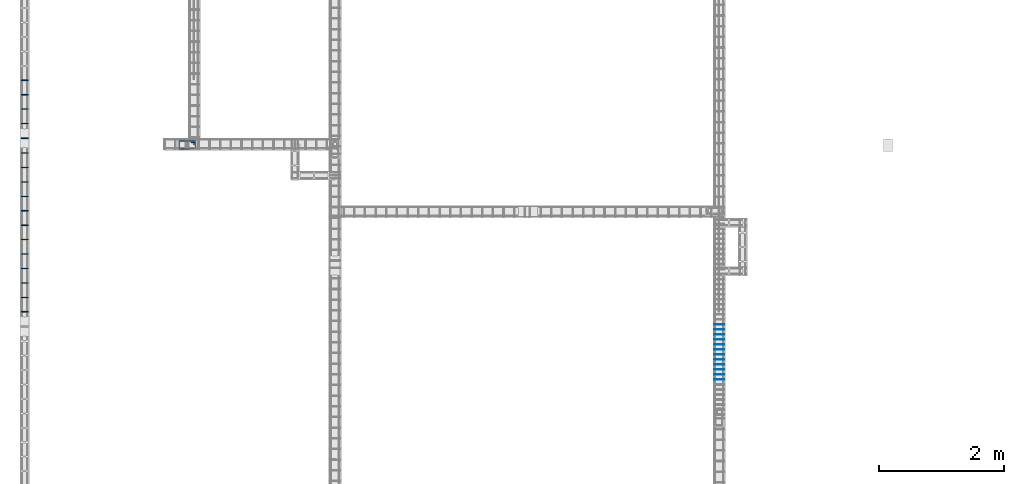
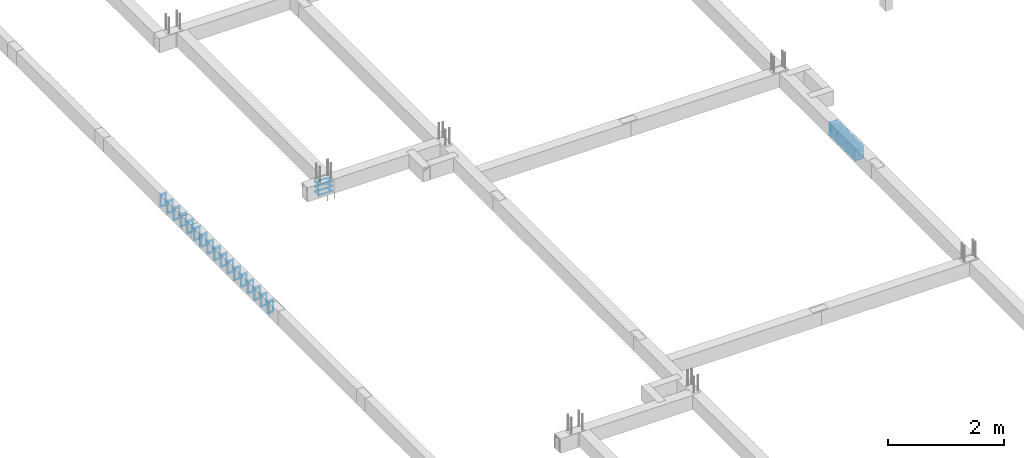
# One storey, part 62 of 150: 33 reinforcing bars.
"""IFC4 building model written with IfcOpenShell, lengths in centimetres."""

from ifc_helpers import new_model, entity, si_unit, derived_unit, frame, origin_with_axes, place, context, project, spatial, source, transform, mapped, element, save


model = new_model("IFC4")

# Units and contexts
model_context = context("Model", 3, precision=1e-05, world=origin_with_axes(), identifier="Body")
ifc_project = project(units=[si_unit("LENGTHUNIT", "METRE", prefix="CENTI"), si_unit("VOLUMEUNIT", "CUBIC_METRE"), si_unit("AREAUNIT", "SQUARE_METRE"), si_unit("POWERUNIT", "WATT"), si_unit("LUMINOUSFLUXUNIT", "LUMEN"), si_unit("ELECTRICCURRENTUNIT", "AMPERE"), si_unit("PRESSUREUNIT", "PASCAL", prefix="KILO"), si_unit("MASSUNIT", "GRAM", prefix="KILO"), si_unit("PLANEANGLEUNIT", "RADIAN"), derived_unit("VOLUMETRICFLOWRATEUNIT", [(si_unit("LENGTHUNIT", "METRE"), 3), (si_unit("TIMEUNIT", "SECOND"), -1)])], contexts=[model_context])

# Site, building, storey
site_placement = place(None, frame((-4000.0, 0.0, 0.0), z_axis=(0.0, 0.0, 1.0), x_axis=(1.0, 0.0, 0.0)))
site = spatial("IfcSite", under=ifc_project, at=site_placement, Name="PADRÃO")
building_placement = place(site_placement, frame((0.0, 0.0, -14.0)))
building = spatial("IfcBuilding", under=site, at=building_placement, Name="CRECHE PRÉ-ESCOLA TIPO 2")
placement = place(building_placement, origin_with_axes())
storey_placement = place(placement, frame((0.0, 0.0, 30.0), z_axis=(0.0, 0.0, 1.0), x_axis=(1.0, 0.0, 0.0)))
storey = spatial("IfcBuildingStorey", under=building, at=storey_placement, Name="VIGA BALDRAME", CompositionType="ELEMENT", Elevation=16.0)

# Reinforcing bars
shared_shape_1 = source(origin_with_axes(), model_context, "Body", "AdvancedSweptSolid", [
    entity("IfcSweptDiskSolid", entity("IfcCompositeCurve", [entity("IfcCompositeCurveSegment", "CONTINUOUS", True, entity("IfcPolyline", [entity("IfcCartesianPoint", [4.25, 21.75, 0.0]), entity("IfcCartesianPoint", [4.25, 27.75, 0.0])])), entity("IfcCompositeCurveSegment", "CONTINUOUS", True, entity("IfcPolyline", [entity("IfcCartesianPoint", [4.25, 27.75, 0.0]), entity("IfcCartesianPoint", [2.25, 27.75, 0.0])])), entity("IfcCompositeCurveSegment", "CONTINUOUS", True, entity("IfcPolyline", [entity("IfcCartesianPoint", [2.25, 27.75, 0.0]), entity("IfcCartesianPoint", [2.25, 2.25, 0.0])])), entity("IfcCompositeCurveSegment", "CONTINUOUS", True, entity("IfcPolyline", [entity("IfcCartesianPoint", [2.25, 2.25, 0.0]), entity("IfcCartesianPoint", [14.75, 2.25, 0.0])])), entity("IfcCompositeCurveSegment", "CONTINUOUS", True, entity("IfcPolyline", [entity("IfcCartesianPoint", [14.75, 2.25, 0.0]), entity("IfcCartesianPoint", [14.75, 27.75, -0.5])])), entity("IfcCompositeCurveSegment", "CONTINUOUS", True, entity("IfcPolyline", [entity("IfcCartesianPoint", [14.75, 27.75, -0.5]), entity("IfcCartesianPoint", [2.25, 27.75, -0.5])])), entity("IfcCompositeCurveSegment", "CONTINUOUS", True, entity("IfcPolyline", [entity("IfcCartesianPoint", [2.25, 27.75, -0.5]), entity("IfcCartesianPoint", [2.25, 25.75, -0.5])])), entity("IfcCompositeCurveSegment", "CONTINUOUS", True, entity("IfcPolyline", [entity("IfcCartesianPoint", [2.25, 25.75, -0.5]), entity("IfcCartesianPoint", [8.25, 25.75, -0.5])]))], False), 0.25),
])
for number, where, z_axis, x_axis, name in (
    (1, (253.0, 2692.01, -5.0), (0.0, 0.0, 1.0), (0.0, -1.0, 0.0), "P65 - Estribo"),
    (2, (253.0, 2692.01, -25.0), (0.0, 0.0, 1.0), (0.0, -1.0, 0.0), "P65 - Estribo"),
    (3, (253.0, 2692.01, -15.0), (0.0, 0.0, 1.0), (0.0, -1.0, 0.0), "P65 - Estribo"),
):
    element("IfcReinforcingBar", number, at=place(storey_placement, frame(where, z_axis=z_axis, x_axis=x_axis)), inside=storey, Name=name, BarLength=0.0, CrossSectionArea=1.9634954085e-05, NominalDiameter=0.5, PredefinedType="MAIN", context=model_context, shape_type="MappedRepresentation", body=[
        mapped(shared_shape_1, transform((0.0, 0.0, 0.0), scale=1.0)),
    ])
shared_shape_2 = source(origin_with_axes(), model_context, "Body", "AdvancedSweptSolid", [
    entity("IfcSweptDiskSolid", entity("IfcCompositeCurve", [entity("IfcCompositeCurveSegment", "CONTINUOUS", True, entity("IfcPolyline", [entity("IfcCartesianPoint", [2.0, -6.0, 0.0]), entity("IfcCartesianPoint", [2.0, 0.0, 0.0])])), entity("IfcCompositeCurveSegment", "CONTINUOUS", True, entity("IfcPolyline", [entity("IfcCartesianPoint", [2.0, 0.0, 0.0]), entity("IfcCartesianPoint", [0.0, 0.0, 0.0])])), entity("IfcCompositeCurveSegment", "CONTINUOUS", True, entity("IfcPolyline", [entity("IfcCartesianPoint", [0.0, 0.0, 0.0]), entity("IfcCartesianPoint", [0.0, -25.5, 0.0])])), entity("IfcCompositeCurveSegment", "CONTINUOUS", True, entity("IfcPolyline", [entity("IfcCartesianPoint", [0.0, -25.5, 0.0]), entity("IfcCartesianPoint", [15.5, -25.5, 0.0])])), entity("IfcCompositeCurveSegment", "CONTINUOUS", True, entity("IfcPolyline", [entity("IfcCartesianPoint", [15.5, -25.5, 0.0]), entity("IfcCartesianPoint", [15.5, 0.0, 0.5])])), entity("IfcCompositeCurveSegment", "CONTINUOUS", True, entity("IfcPolyline", [entity("IfcCartesianPoint", [15.5, 0.0, 0.5]), entity("IfcCartesianPoint", [0.0, 0.0, 0.5])])), entity("IfcCompositeCurveSegment", "CONTINUOUS", True, entity("IfcPolyline", [entity("IfcCartesianPoint", [0.0, 0.0, 0.5]), entity("IfcCartesianPoint", [0.0, -2.0, 0.5])])), entity("IfcCompositeCurveSegment", "CONTINUOUS", True, entity("IfcPolyline", [entity("IfcCartesianPoint", [0.0, -2.0, 0.5]), entity("IfcCartesianPoint", [6.0, -2.0, 0.5])]))], False), 0.25),
])
for number, where, z_axis, x_axis, name in (
    (4, (1108.25, 2397.75, -2.25), (0.0, -1.0, 0.0), (1.0, 0.0, 0.0), "V183 - Estribo"),
    (5, (1108.25, 2389.75, -2.25), (0.0, -1.0, 0.0), (1.0, 0.0, 0.0), "V183 - Estribo"),
    (6, (1108.25, 2381.75, -2.25), (0.0, -1.0, 0.0), (1.0, 0.0, 0.0), "V183 - Estribo"),
    (7, (1108.25, 2373.75, -2.25), (0.0, -1.0, 0.0), (1.0, 0.0, 0.0), "V183 - Estribo"),
    (8, (1108.25, 2365.75, -2.25), (0.0, -1.0, 0.0), (1.0, 0.0, 0.0), "V183 - Estribo"),
    (9, (1108.25, 2357.75, -2.25), (0.0, -1.0, 0.0), (1.0, 0.0, 0.0), "V183 - Estribo"),
    (10, (1108.25, 2349.75, -2.25), (0.0, -1.0, 0.0), (1.0, 0.0, 0.0), "V183 - Estribo"),
    (11, (1108.25, 2341.75, -2.25), (0.0, -1.0, 0.0), (1.0, 0.0, 0.0), "V183 - Estribo"),
    (12, (1108.25, 2333.75, -2.25), (0.0, -1.0, 0.0), (1.0, 0.0, 0.0), "V183 - Estribo"),
    (13, (1108.25, 2325.75, -2.25), (0.0, -1.0, 0.0), (1.0, 0.0, 0.0), "V183 - Estribo"),
    (14, (1108.25, 2317.75, -2.25), (0.0, -1.0, 0.0), (1.0, 0.0, 0.0), "V183 - Estribo"),
    (15, (1108.25, 2309.75, -2.25), (0.0, -1.0, 0.0), (1.0, 0.0, 0.0), "V183 - Estribo"),
):
    element("IfcReinforcingBar", number, at=place(storey_placement, frame(where, z_axis=z_axis, x_axis=x_axis)), inside=storey, Name=name, BarLength=0.0, CrossSectionArea=1.9634954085e-05, NominalDiameter=0.5, PredefinedType="MAIN", context=model_context, shape_type="MappedRepresentation", body=[
        mapped(shared_shape_2, transform((0.0, 0.0, 0.0), scale=1.0)),
    ])
shared_shape_3 = source(origin_with_axes(), model_context, "Body", "AdvancedSweptSolid", [
    entity("IfcSweptDiskSolid", entity("IfcCompositeCurve", [entity("IfcCompositeCurveSegment", "CONTINUOUS", True, entity("IfcPolyline", [entity("IfcCartesianPoint", [2.0, -6.0, 0.0]), entity("IfcCartesianPoint", [2.0, 0.0, 0.0])])), entity("IfcCompositeCurveSegment", "CONTINUOUS", True, entity("IfcPolyline", [entity("IfcCartesianPoint", [2.0, 0.0, 0.0]), entity("IfcCartesianPoint", [0.0, 0.0, 0.0])])), entity("IfcCompositeCurveSegment", "CONTINUOUS", True, entity("IfcPolyline", [entity("IfcCartesianPoint", [0.0, 0.0, 0.0]), entity("IfcCartesianPoint", [0.0, -25.5, 0.0])])), entity("IfcCompositeCurveSegment", "CONTINUOUS", True, entity("IfcPolyline", [entity("IfcCartesianPoint", [0.0, -25.5, 0.0]), entity("IfcCartesianPoint", [10.5, -25.5, 0.0])])), entity("IfcCompositeCurveSegment", "CONTINUOUS", True, entity("IfcPolyline", [entity("IfcCartesianPoint", [10.5, -25.5, 0.0]), entity("IfcCartesianPoint", [10.5, 0.0, 0.5])])), entity("IfcCompositeCurveSegment", "CONTINUOUS", True, entity("IfcPolyline", [entity("IfcCartesianPoint", [10.5, 0.0, 0.5]), entity("IfcCartesianPoint", [0.0, 0.0, 0.5])])), entity("IfcCompositeCurveSegment", "CONTINUOUS", True, entity("IfcPolyline", [entity("IfcCartesianPoint", [0.0, 0.0, 0.5]), entity("IfcCartesianPoint", [0.0, -2.0, 0.5])])), entity("IfcCompositeCurveSegment", "CONTINUOUS", True, entity("IfcPolyline", [entity("IfcCartesianPoint", [0.0, -2.0, 0.5]), entity("IfcCartesianPoint", [6.0, -2.0, 0.5])]))], False), 0.25),
])
for number, where, z_axis, x_axis, name in (
    (16, (3.75, 2418.0, -2.25), (0.0, -1.0, 0.0), (1.0, 0.0, 0.0), "V159 - Estribo"),
    (17, (3.75, 2441.0, -2.25), (0.0, -1.0, 0.0), (1.0, 0.0, 0.0), "V159 - Estribo"),
    (18, (3.75, 2464.0, -2.25), (0.0, -1.0, 0.0), (1.0, 0.0, 0.0), "V159 - Estribo"),
    (19, (3.75, 2487.0, -2.25), (0.0, -1.0, 0.0), (1.0, 0.0, 0.0), "V159 - Estribo"),
    (20, (3.75, 2510.0, -2.25), (0.0, -1.0, 0.0), (1.0, 0.0, 0.0), "V159 - Estribo"),
    (21, (3.75, 2533.0, -2.25), (0.0, -1.0, 0.0), (1.0, 0.0, 0.0), "V159 - Estribo"),
    (22, (3.75, 2556.0, -2.25), (0.0, -1.0, 0.0), (1.0, 0.0, 0.0), "V159 - Estribo"),
    (23, (3.75, 2579.0, -2.25), (0.0, -1.0, 0.0), (1.0, 0.0, 0.0), "V159 - Estribo"),
    (24, (3.75, 2602.0, -2.25), (0.0, -1.0, 0.0), (1.0, 0.0, 0.0), "V159 - Estribo"),
    (25, (3.75, 2625.0, -2.25), (0.0, -1.0, 0.0), (1.0, 0.0, 0.0), "V159 - Estribo"),
    (26, (3.75, 2648.0, -2.25), (0.0, -1.0, 0.0), (1.0, 0.0, 0.0), "V159 - Estribo"),
    (27, (3.75, 2671.0, -2.25), (0.0, -1.0, 0.0), (1.0, 0.0, 0.0), "V159 - Estribo"),
    (28, (3.75, 2694.0, -2.25), (0.0, -1.0, 0.0), (1.0, 0.0, 0.0), "V159 - Estribo"),
):
    element("IfcReinforcingBar", number, at=place(storey_placement, frame(where, z_axis=z_axis, x_axis=x_axis)), inside=storey, Name=name, BarLength=0.0, CrossSectionArea=1.9634954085e-05, NominalDiameter=0.5, PredefinedType="MAIN", context=model_context, shape_type="MappedRepresentation", body=[
        mapped(shared_shape_3, transform((0.0, 0.0, 0.0), scale=1.0)),
    ])
shared_shape_4 = source(origin_with_axes(), model_context, "Body", "AdvancedSweptSolid", [
    entity("IfcSweptDiskSolid", entity("IfcCompositeCurve", [entity("IfcCompositeCurveSegment", "CONTINUOUS", True, entity("IfcPolyline", [entity("IfcCartesianPoint", [2.0, -6.0, 0.0]), entity("IfcCartesianPoint", [2.0, 0.0, 0.0])])), entity("IfcCompositeCurveSegment", "CONTINUOUS", True, entity("IfcPolyline", [entity("IfcCartesianPoint", [2.0, 0.0, 0.0]), entity("IfcCartesianPoint", [0.0, 0.0, 0.0])])), entity("IfcCompositeCurveSegment", "CONTINUOUS", True, entity("IfcPolyline", [entity("IfcCartesianPoint", [0.0, 0.0, 0.0]), entity("IfcCartesianPoint", [0.0, -25.5, 0.0])])), entity("IfcCompositeCurveSegment", "CONTINUOUS", True, entity("IfcPolyline", [entity("IfcCartesianPoint", [0.0, -25.5, 0.0]), entity("IfcCartesianPoint", [10.5, -25.5, 0.0])])), entity("IfcCompositeCurveSegment", "CONTINUOUS", True, entity("IfcPolyline", [entity("IfcCartesianPoint", [10.5, -25.5, 0.0]), entity("IfcCartesianPoint", [10.5, 0.0, 0.5])])), entity("IfcCompositeCurveSegment", "CONTINUOUS", True, entity("IfcPolyline", [entity("IfcCartesianPoint", [10.5, 0.0, 0.5]), entity("IfcCartesianPoint", [0.0, 0.0, 0.5])])), entity("IfcCompositeCurveSegment", "CONTINUOUS", True, entity("IfcPolyline", [entity("IfcCartesianPoint", [0.0, 0.0, 0.5]), entity("IfcCartesianPoint", [0.0, -2.0, 0.5])])), entity("IfcCompositeCurveSegment", "CONTINUOUS", True, entity("IfcPolyline", [entity("IfcCartesianPoint", [0.0, -2.0, 0.5]), entity("IfcCartesianPoint", [6.0, -2.0, 0.5])]))], False), 0.25),
])
for number, where, z_axis, x_axis, name in (
    (29, (3.75, 2695.0, -2.25), (0.0, -1.0, 0.0), (1.0, 0.0, 0.0), "V159 - Estribo"),
    (30, (3.75, 2718.0, -2.25), (0.0, -1.0, 0.0), (1.0, 0.0, 0.0), "V159 - Estribo"),
    (31, (3.75, 2741.0, -2.25), (0.0, -1.0, 0.0), (1.0, 0.0, 0.0), "V159 - Estribo"),
    (32, (3.75, 2764.0, -2.25), (0.0, -1.0, 0.0), (1.0, 0.0, 0.0), "V159 - Estribo"),
    (33, (3.75, 2787.0, -2.25), (0.0, -1.0, 0.0), (1.0, 0.0, 0.0), "V159 - Estribo"),
):
    element("IfcReinforcingBar", number, at=place(storey_placement, frame(where, z_axis=z_axis, x_axis=x_axis)), inside=storey, Name=name, BarLength=0.0, CrossSectionArea=1.9634954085e-05, NominalDiameter=0.5, PredefinedType="MAIN", context=model_context, shape_type="MappedRepresentation", body=[
        mapped(shared_shape_4, transform((0.0, 0.0, 0.0), scale=1.0)),
    ])

save(model, "model.ifc")
